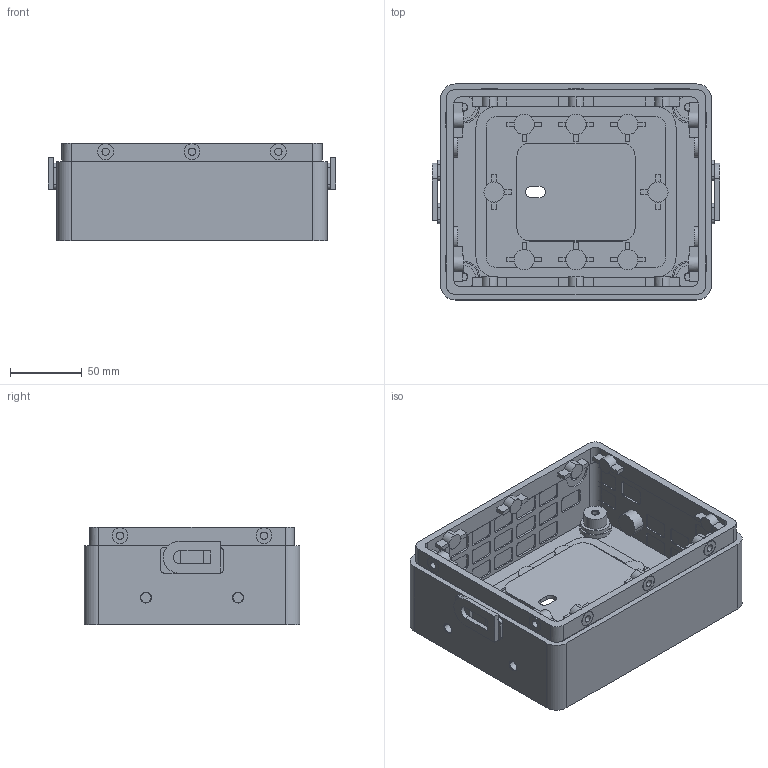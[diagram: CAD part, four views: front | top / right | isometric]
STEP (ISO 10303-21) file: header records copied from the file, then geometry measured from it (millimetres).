
FILE_DESCRIPTION(('CATIA V5 STEP Exchange','CAx-IF Rec.Pracs.--- Model Styling and Organization---1.5--- 2016-08-15','CAx-IF Rec.Pracs.---Supplemental Geometry---1.0---2011-11-01','CAx-IF Rec.Pracs.--- Composite Materials ---3.4---2017-06-13','CAx-IF Rec.Pracs.---Tessellated 3D Geometry---1.0---2015-12-17'),'2;1');
FILE_NAME('C:\Users\icemi\Desktop\RZS_Repository\RES\catia_macros\generated\RES_Enclosure_20260730_144117\RES_MainHousing.stp','2026-07-30T06:41:47+00:00',('none'),('none'),'CATIA Version 5-6 Release 2022 SP6','CATIA V5 STEP AP242 v3','none');
FILE_SCHEMA(('AP242_MANAGED_MODEL_BASED_3D_ENGINEERING_MIM_LF {1 0 10303 442 1 1 4}'));
Length unit declared in the file: millimetre
Products named in the file (1): Part3
Bounding box: 200 x 150 x 68 mm (x, y, z)
Volume: 326749.8 mm3; surface area: 186577.7 mm2
Topology: 1 solids, 1 shells, 1176 faces, 3106 edges, 2054 vertices
Faces by surface type: plane 706, cylinder 470
Entity records: 31710 total; most frequent: ORIENTED_EDGE 6212, CARTESIAN_POINT 5564, DIRECTION 3912, EDGE_CURVE 3106, VERTEX_POINT 2054, VECTOR 2012, LINE 2012, AXIS2_PLACEMENT_3D 1498
